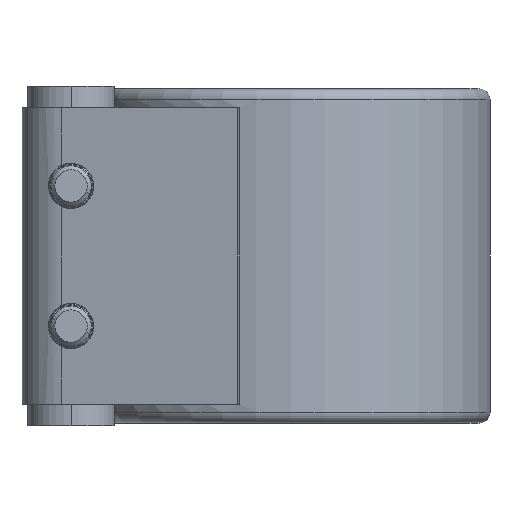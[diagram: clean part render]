
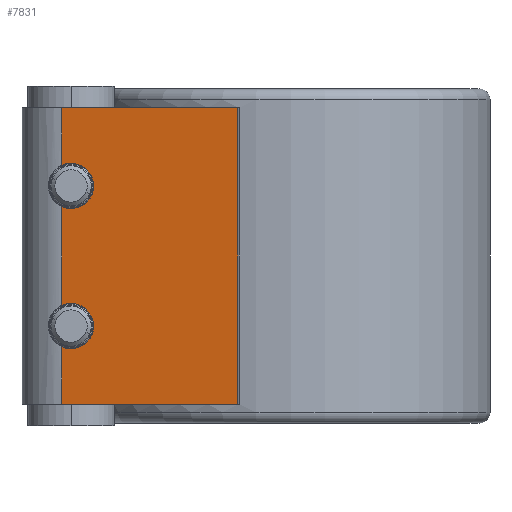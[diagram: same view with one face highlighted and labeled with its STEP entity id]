
A CAD part, left-side view. The second image highlights one B-rep face of the part: STEP entity #7831.
In plain terms, the highlighted planar face has unit normal (-0.982, 0.189, 0).
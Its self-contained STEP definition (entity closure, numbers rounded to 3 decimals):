
#16 = CARTESIAN_POINT ( 'NONE',  ( -30.867, 40.727, 8.8 ) ) ;
#117 = CARTESIAN_POINT ( 'NONE',  ( -30.752, 41.321, -17.2 ) ) ;
#125 = ORIENTED_EDGE ( 'NONE', *, *, #4427, .F. ) ;
#174 = VERTEX_POINT ( 'NONE', #5816 ) ;
#462 = VECTOR ( 'NONE', #1606, 1000. ) ;
#470 = CARTESIAN_POINT ( 'NONE',  ( -30.867, 40.727, 17.2 ) ) ;
#594 = CARTESIAN_POINT ( 'NONE',  ( -36.82, 9.76, -27.5 ) ) ;
#631 = CARTESIAN_POINT ( 'NONE',  ( -30.641, 41.902, -8.924 ) ) ;
#723 = ORIENTED_EDGE ( 'NONE', *, *, #5398, .F. ) ;
#839 = VERTEX_POINT ( 'NONE', #594 ) ;
#857 = LINE ( 'NONE', #6566, #4929 ) ;
#876 = EDGE_CURVE ( 'NONE', #1708, #839, #1034, .T. ) ;
#973 = LINE ( 'NONE', #8208, #462 ) ;
#1034 = LINE ( 'NONE', #7180, #7986 ) ;
#1097 = EDGE_LOOP ( 'NONE', ( #2855, #3795, #723, #4387, #3445, #3357, #2863, #4423, #4494, #6853, #4826, #125 ) ) ;
#1101 =( BOUNDED_CURVE ( )  B_SPLINE_CURVE ( 3, ( #2570, #4541, #8458, #1906 ),
 .UNSPECIFIED., .F., .F. ) 
 B_SPLINE_CURVE_WITH_KNOTS ( ( 4, 4 ),
 ( 1.149, 1.571 ),
 .UNSPECIFIED. ) 
 CURVE ( )  GEOMETRIC_REPRESENTATION_ITEM ( )  RATIONAL_B_SPLINE_CURVE ( ( 1., 0.985, 0.985, 1. ) ) 
 REPRESENTATION_ITEM ( '' )  );
#1246 = CARTESIAN_POINT ( 'NONE',  ( -30.867, 40.727, 17.2 ) ) ;
#1282 = VERTEX_POINT ( 'NONE', #8274 ) ;
#1376 = DIRECTION ( 'NONE',  ( -0.189, -0.982, 0. ) ) ;
#1385 = VERTEX_POINT ( 'NONE', #8462 ) ;
#1556 = DIRECTION ( 'NONE',  ( -0.982, 0.189, 0. ) ) ;
#1563 = CARTESIAN_POINT ( 'NONE',  ( -30.867, 40.727, -8.8 ) ) ;
#1589 = PLANE ( 'NONE',  #2152 ) ;
#1606 = DIRECTION ( 'NONE',  ( 0., 0., 1. ) ) ;
#1633 = EDGE_CURVE ( 'NONE', #4364, #7361, #2623, .T. ) ;
#1676 = CARTESIAN_POINT ( 'NONE',  ( -30.536, 42.444, 16.833 ) ) ;
#1708 = VERTEX_POINT ( 'NONE', #2296 ) ;
#1798 = VECTOR ( 'NONE', #5833, 1000. ) ;
#1837 = VERTEX_POINT ( 'NONE', #5810 ) ;
#1906 = CARTESIAN_POINT ( 'NONE',  ( -30.867, 40.727, 8.8 ) ) ;
#1948 = VERTEX_POINT ( 'NONE', #2697 ) ;
#1971 = CARTESIAN_POINT ( 'NONE',  ( -32.481, 32.327, 17.2 ) ) ;
#2152 = AXIS2_PLACEMENT_3D ( 'NONE', #6185, #1556, #6872 ) ;
#2296 = CARTESIAN_POINT ( 'NONE',  ( -30.536, 42.444, -27.5 ) ) ;
#2298 = LINE ( 'NONE', #3591, #7830 ) ;
#2348 = CARTESIAN_POINT ( 'NONE',  ( -30.867, 40.727, 17.2 ) ) ;
#2570 = CARTESIAN_POINT ( 'NONE',  ( -30.536, 42.444, 9.167 ) ) ;
#2623 =( BOUNDED_CURVE ( )  B_SPLINE_CURVE ( 3, ( #2348, #3625, #4922, #6270 ),
 .UNSPECIFIED., .F., .F. ) 
 B_SPLINE_CURVE_WITH_KNOTS ( ( 4, 4 ),
 ( 4.712, 5.134 ),
 .UNSPECIFIED. ) 
 CURVE ( )  GEOMETRIC_REPRESENTATION_ITEM ( )  RATIONAL_B_SPLINE_CURVE ( ( 1., 0.985, 0.985, 1. ) ) 
 REPRESENTATION_ITEM ( '' )  );
#2653 = EDGE_CURVE ( 'NONE', #1948, #5845, #8438, .T. ) ;
#2665 = CARTESIAN_POINT ( 'NONE',  ( -36.82, 9.76, -27.5 ) ) ;
#2697 = CARTESIAN_POINT ( 'NONE',  ( -30.536, 42.444, -16.833 ) ) ;
#2726 = DIRECTION ( 'NONE',  ( -0.189, -0.982, 0. ) ) ;
#2816 = CARTESIAN_POINT ( 'NONE',  ( -30.867, 40.727, -17.2 ) ) ;
#2855 = ORIENTED_EDGE ( 'NONE', *, *, #6631, .F. ) ;
#2863 = ORIENTED_EDGE ( 'NONE', *, *, #876, .T. ) ;
#2941 = LINE ( 'NONE', #2665, #1798 ) ;
#2992 =( BOUNDED_CURVE ( )  B_SPLINE_CURVE ( 3, ( #6286, #5473, #6941, #1563 ),
 .UNSPECIFIED., .F., .F. ) 
 B_SPLINE_CURVE_WITH_KNOTS ( ( 4, 4 ),
 ( 1.571, 4.712 ),
 .UNSPECIFIED. ) 
 CURVE ( )  GEOMETRIC_REPRESENTATION_ITEM ( )  RATIONAL_B_SPLINE_CURVE ( ( 1., 0.333, 0.333, 1. ) ) 
 REPRESENTATION_ITEM ( '' )  );
#3194 = CARTESIAN_POINT ( 'NONE',  ( -30.752, 41.321, -8.8 ) ) ;
#3357 = ORIENTED_EDGE ( 'NONE', *, *, #5004, .F. ) ;
#3411 = CARTESIAN_POINT ( 'NONE',  ( -36.82, 9.76, 27.5 ) ) ;
#3445 = ORIENTED_EDGE ( 'NONE', *, *, #2653, .F. ) ;
#3527 = EDGE_CURVE ( 'NONE', #7361, #7256, #2298, .T. ) ;
#3591 = CARTESIAN_POINT ( 'NONE',  ( -30.536, 42.444, -27.5 ) ) ;
#3625 = CARTESIAN_POINT ( 'NONE',  ( -30.752, 41.321, 17.2 ) ) ;
#3795 = ORIENTED_EDGE ( 'NONE', *, *, #4158, .F. ) ;
#3897 = CARTESIAN_POINT ( 'NONE',  ( -30.867, 40.727, -8.8 ) ) ;
#3968 = CARTESIAN_POINT ( 'NONE',  ( -30.867, 40.727, -17.2 ) ) ;
#4127 =( BOUNDED_CURVE ( )  B_SPLINE_CURVE ( 3, ( #16, #4465, #1971, #1246 ),
 .UNSPECIFIED., .F., .F. ) 
 B_SPLINE_CURVE_WITH_KNOTS ( ( 4, 4 ),
 ( 1.571, 4.712 ),
 .UNSPECIFIED. ) 
 CURVE ( )  GEOMETRIC_REPRESENTATION_ITEM ( )  RATIONAL_B_SPLINE_CURVE ( ( 1., 0.333, 0.333, 1. ) ) 
 REPRESENTATION_ITEM ( '' )  );
#4158 = EDGE_CURVE ( 'NONE', #1282, #1385, #973, .T. ) ;
#4364 = VERTEX_POINT ( 'NONE', #470 ) ;
#4387 = ORIENTED_EDGE ( 'NONE', *, *, #7564, .F. ) ;
#4423 = ORIENTED_EDGE ( 'NONE', *, *, #5777, .T. ) ;
#4427 = EDGE_CURVE ( 'NONE', #1837, #4364, #4127, .T. ) ;
#4465 = CARTESIAN_POINT ( 'NONE',  ( -32.481, 32.327, 8.8 ) ) ;
#4494 = ORIENTED_EDGE ( 'NONE', *, *, #5515, .F. ) ;
#4541 = CARTESIAN_POINT ( 'NONE',  ( -30.641, 41.902, 8.924 ) ) ;
#4611 = CARTESIAN_POINT ( 'NONE',  ( -30.536, 42.444, -9.167 ) ) ;
#4826 = ORIENTED_EDGE ( 'NONE', *, *, #1633, .F. ) ;
#4922 = CARTESIAN_POINT ( 'NONE',  ( -30.641, 41.902, 17.076 ) ) ;
#4929 = VECTOR ( 'NONE', #5317, 1000. ) ;
#5004 = EDGE_CURVE ( 'NONE', #1708, #1948, #857, .T. ) ;
#5317 = DIRECTION ( 'NONE',  ( 0., 0., 1. ) ) ;
#5398 = EDGE_CURVE ( 'NONE', #174, #1282, #8171, .T. ) ;
#5449 = FACE_OUTER_BOUND ( 'NONE', #1097, .T. ) ;
#5473 = CARTESIAN_POINT ( 'NONE',  ( -32.481, 32.327, -17.2 ) ) ;
#5515 = EDGE_CURVE ( 'NONE', #7256, #6571, #8363, .T. ) ;
#5777 = EDGE_CURVE ( 'NONE', #839, #6571, #2941, .T. ) ;
#5810 = CARTESIAN_POINT ( 'NONE',  ( -30.867, 40.727, 8.8 ) ) ;
#5816 = CARTESIAN_POINT ( 'NONE',  ( -30.867, 40.727, -8.8 ) ) ;
#5833 = DIRECTION ( 'NONE',  ( 0., 0., 1. ) ) ;
#5845 = VERTEX_POINT ( 'NONE', #2816 ) ;
#5950 = CARTESIAN_POINT ( 'NONE',  ( -30.536, 42.444, 27.5 ) ) ;
#6185 = CARTESIAN_POINT ( 'NONE',  ( -36.82, 9.76, -27.5 ) ) ;
#6270 = CARTESIAN_POINT ( 'NONE',  ( -30.536, 42.444, 16.833 ) ) ;
#6286 = CARTESIAN_POINT ( 'NONE',  ( -30.867, 40.727, -17.2 ) ) ;
#6403 = CARTESIAN_POINT ( 'NONE',  ( -36.82, 9.76, 27.5 ) ) ;
#6566 = CARTESIAN_POINT ( 'NONE',  ( -30.536, 42.444, -27.5 ) ) ;
#6571 = VERTEX_POINT ( 'NONE', #6403 ) ;
#6631 = EDGE_CURVE ( 'NONE', #1385, #1837, #1101, .T. ) ;
#6853 = ORIENTED_EDGE ( 'NONE', *, *, #3527, .F. ) ;
#6872 = DIRECTION ( 'NONE',  ( -0.189, -0.982, 0. ) ) ;
#6923 = VECTOR ( 'NONE', #2726, 1000. ) ;
#6941 = CARTESIAN_POINT ( 'NONE',  ( -32.481, 32.327, -8.8 ) ) ;
#7180 = CARTESIAN_POINT ( 'NONE',  ( -36.82, 9.76, -27.5 ) ) ;
#7256 = VERTEX_POINT ( 'NONE', #5950 ) ;
#7283 = CARTESIAN_POINT ( 'NONE',  ( -30.641, 41.902, -17.076 ) ) ;
#7361 = VERTEX_POINT ( 'NONE', #1676 ) ;
#7495 = DIRECTION ( 'NONE',  ( 0., 0., 1. ) ) ;
#7564 = EDGE_CURVE ( 'NONE', #5845, #174, #2992, .T. ) ;
#7830 = VECTOR ( 'NONE', #7495, 1000. ) ;
#7831 = ADVANCED_FACE ( 'NONE', ( #5449 ), #1589, .T. ) ;
#7896 = CARTESIAN_POINT ( 'NONE',  ( -30.536, 42.444, -16.833 ) ) ;
#7986 = VECTOR ( 'NONE', #1376, 1000. ) ;
#8171 =( BOUNDED_CURVE ( )  B_SPLINE_CURVE ( 3, ( #3897, #3194, #631, #4611 ),
 .UNSPECIFIED., .F., .F. ) 
 B_SPLINE_CURVE_WITH_KNOTS ( ( 4, 4 ),
 ( 4.712, 5.134 ),
 .UNSPECIFIED. ) 
 CURVE ( )  GEOMETRIC_REPRESENTATION_ITEM ( )  RATIONAL_B_SPLINE_CURVE ( ( 1., 0.985, 0.985, 1. ) ) 
 REPRESENTATION_ITEM ( '' )  );
#8208 = CARTESIAN_POINT ( 'NONE',  ( -30.536, 42.444, -27.5 ) ) ;
#8274 = CARTESIAN_POINT ( 'NONE',  ( -30.536, 42.444, -9.167 ) ) ;
#8363 = LINE ( 'NONE', #3411, #6923 ) ;
#8438 =( BOUNDED_CURVE ( )  B_SPLINE_CURVE ( 3, ( #7896, #7283, #117, #3968 ),
 .UNSPECIFIED., .F., .F. ) 
 B_SPLINE_CURVE_WITH_KNOTS ( ( 4, 4 ),
 ( 1.149, 1.571 ),
 .UNSPECIFIED. ) 
 CURVE ( )  GEOMETRIC_REPRESENTATION_ITEM ( )  RATIONAL_B_SPLINE_CURVE ( ( 1., 0.985, 0.985, 1. ) ) 
 REPRESENTATION_ITEM ( '' )  );
#8458 = CARTESIAN_POINT ( 'NONE',  ( -30.752, 41.321, 8.8 ) ) ;
#8462 = CARTESIAN_POINT ( 'NONE',  ( -30.536, 42.444, 9.167 ) ) ;
